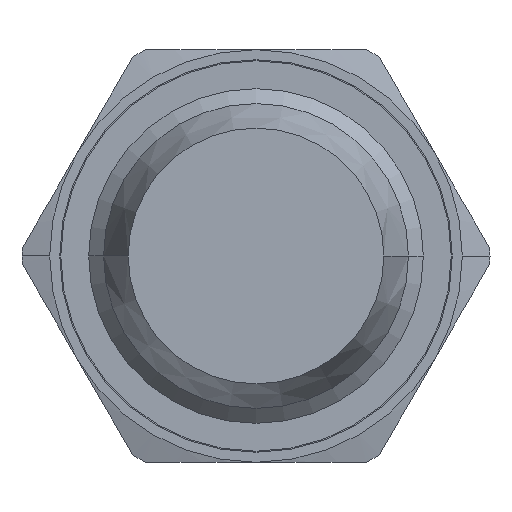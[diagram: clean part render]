
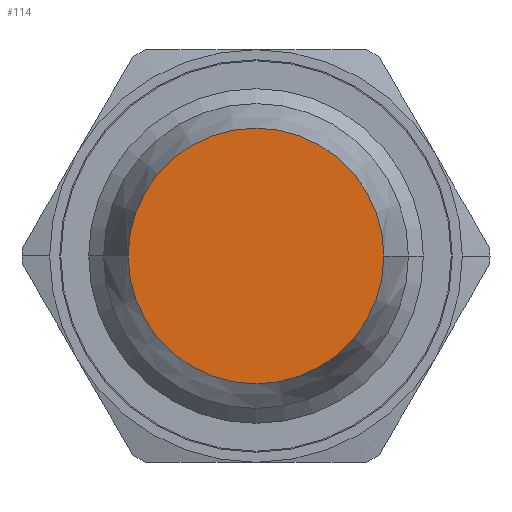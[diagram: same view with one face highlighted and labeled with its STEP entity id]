
A CAD part, front view. The second image highlights one B-rep face of the part: STEP entity #114.
In plain terms, the highlighted planar face has unit normal (0, -1, 0).
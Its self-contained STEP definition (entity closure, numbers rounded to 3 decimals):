
#114 = ADVANCED_FACE( '', ( #213 ), #214, .T. );
#213 = FACE_OUTER_BOUND( '', #336, .T. );
#214 = PLANE( '', #337 );
#336 = EDGE_LOOP( '', ( #669, #670 ) );
#337 = AXIS2_PLACEMENT_3D( '', #671, #672, #673 );
#669 = ORIENTED_EDGE( '', *, *, #854, .F. );
#670 = ORIENTED_EDGE( '', *, *, #925, .F. );
#671 = CARTESIAN_POINT( '', ( 6.35, 0., 0. ) );
#672 = DIRECTION( '', ( 0., -1., 0. ) );
#673 = DIRECTION( '', ( -1., 0., 0. ) );
#854 = EDGE_CURVE( '', #1016, #1018, #1019, .T. );
#925 = EDGE_CURVE( '', #1018, #1016, #1129, .T. );
#1016 = VERTEX_POINT( '', #1240 );
#1018 = VERTEX_POINT( '', #1243 );
#1019 = CIRCLE( '', #1244, 12.7 );
#1129 = CIRCLE( '', #1589, 12.7 );
#1240 = CARTESIAN_POINT( '', ( 12.7, 0., 0. ) );
#1243 = CARTESIAN_POINT( '', ( -12.7, 0., 0. ) );
#1244 = AXIS2_PLACEMENT_3D( '', #1684, #1685, #1686 );
#1589 = AXIS2_PLACEMENT_3D( '', #1787, #1788, #1789 );
#1684 = CARTESIAN_POINT( '', ( 0., 0., 0. ) );
#1685 = DIRECTION( '', ( 0., 1., 0. ) );
#1686 = DIRECTION( '', ( 1., 0., 0. ) );
#1787 = CARTESIAN_POINT( '', ( 0., 0., 0. ) );
#1788 = DIRECTION( '', ( 0., 1., 0. ) );
#1789 = DIRECTION( '', ( 1., 0., 0. ) );
